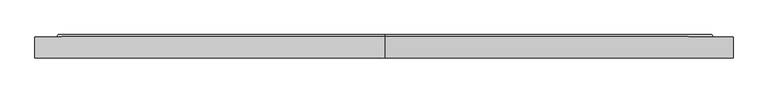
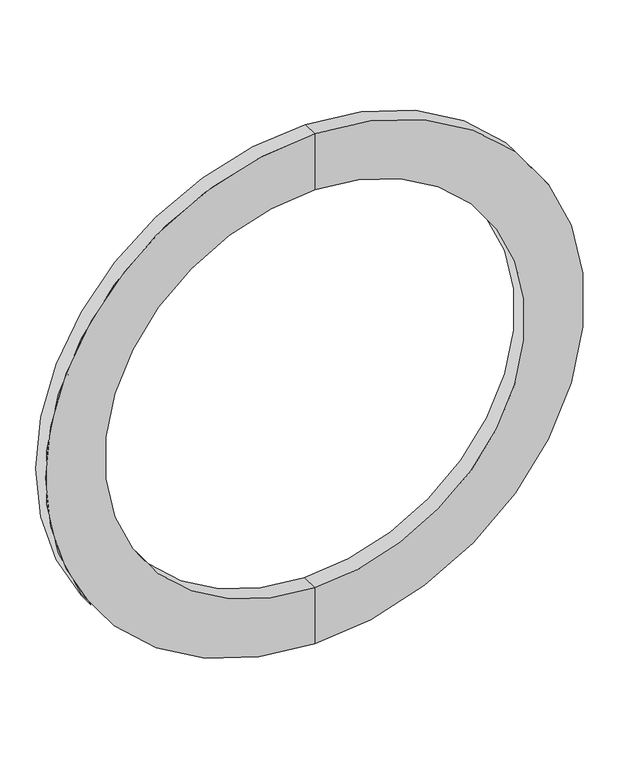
"""IFC4 building model written with IfcOpenShell, lengths in millimetres: pipe fitting geometry, Фланец : Фланец."""

import ifcopenshell
import ifcopenshell.guid

model = None  # the IFC model being written
_history = None  # IfcOwnerHistory: only IFC2X3 demands one
_inside = {}  # id of a spatial element -> (the spatial element, [elements in it])
_under = {}  # id of a project, library or spatial element -> (it, [spatial elements below it])
_declared = {}  # id of a project -> (the project, [libraries it declares])
_typed = {}  # id of a type object -> (the type object, [elements of that type])
_made_of = {}  # id of a material, layer set ... -> (it, [elements and type objects made of it])


def new_model(schema):
    """Start an empty IFC model of exactly this schema.

    Asked for "IFC4X3", IfcOpenShell would pick the latest addendum, in which some entities
    have other attributes; the version numbers below select the first issue.
    IFC2X3 requires an IfcOwnerHistory on every rooted entity: one is made here for all.
    """
    global model, _history
    if schema == "IFC4X3":
        model = ifcopenshell.file(schema_version=(4, 3, 0, 0))
    else:
        model = ifcopenshell.file(schema=schema)
    _inside.clear()
    _under.clear()
    _declared.clear()
    _typed.clear()
    _made_of.clear()
    _history = None
    if model.schema == "IFC2X3":
        org = make("IfcOrganization", Name="unknown")
        user = make(
            "IfcPersonAndOrganization",
            ThePerson=make("IfcPerson", FamilyName="unknown"),
            TheOrganization=org,
        )
        app = make(
            "IfcApplication",
            ApplicationDeveloper=org,
            Version="unknown",
            ApplicationFullName="unknown",
            ApplicationIdentifier="unknown",
        )
        _history = make(
            "IfcOwnerHistory",
            OwningUser=user,
            OwningApplication=app,
            ChangeAction="ADDED",
            CreationDate=0,
        )
    return model


def make(cls, **values):
    """One entity of the class cls with the attributes given. An attribute that is None is left unset."""
    return model.create_entity(
        cls, **{name: value for name, value in values.items() if value is not None}
    )


def rooted(cls, **values):
    """An entity with a GlobalId (a new one), such as an element, a storey or a relation."""
    return make(cls, GlobalId=ifcopenshell.guid.new(), OwnerHistory=_history, **values)


def si_unit(unit_type, name, prefix=None):
    """IfcSIUnit, for example si_unit("LENGTHUNIT", "METRE", prefix="MILLI")."""
    return make("IfcSIUnit", UnitType=unit_type, Prefix=prefix, Name=name)


def assignment(units):
    """IfcUnitAssignment: the units of a project."""
    return None if units is None else make("IfcUnitAssignment", Units=units)


def point(xyz):
    """IfcCartesianPoint."""
    return None if xyz is None else make("IfcCartesianPoint", Coordinates=xyz)


def direction(xyz):
    """IfcDirection."""
    return None if xyz is None else make("IfcDirection", DirectionRatios=xyz)


def frame(location, z_axis=None, x_axis=None):
    """IfcAxis2Placement3D, a coordinate frame: its origin and axes. An axis left out is left unset."""
    return make(
        "IfcAxis2Placement3D",
        Location=point(location),
        Axis=direction(z_axis),
        RefDirection=direction(x_axis),
    )


def origin():
    """The frame at (0, 0, 0) with its axes left unset."""
    return frame((0.0, 0.0, 0.0))


def place(relative_to, where):
    """IfcLocalPlacement: puts the frame where relative to a parent placement (None: the world)."""
    return make(
        "IfcLocalPlacement", PlacementRelTo=relative_to, RelativePlacement=where
    )


def context(
    kind, dimensions, precision=None, world=None, true_north=None, identifier=None
):
    """IfcGeometricRepresentationContext, for example the 3D "Model" context."""
    return make(
        "IfcGeometricRepresentationContext",
        ContextIdentifier=identifier,
        ContextType=kind,
        CoordinateSpaceDimension=dimensions,
        Precision=precision,
        WorldCoordinateSystem=world,
        TrueNorth=true_north,
    )


def project(units=None, contexts=None):
    """IfcProject with its units and contexts."""
    return rooted(
        "IfcProject",
        Name="project",
        RepresentationContexts=contexts,
        UnitsInContext=assignment(units),
    )


def spatial(cls, under=None, at=None, **own):
    """A site, building, storey or space (cls), placed at a placement, below another one or the project."""
    s = rooted(cls, ObjectPlacement=at, **own)
    if under is not None:
        _under.setdefault(under.id(), (under, []))[1].append(s)
    return s


def polyline(points):
    """IfcPolyline through the points."""
    return make("IfcPolyline", Points=[point(p) for p in points])


def circle_curve(where, radius):
    """IfcCircle in the frame where."""
    return make("IfcCircle", Position=where, Radius=radius)


def shape(context_of_items, identifier, shape_type, items):
    """IfcShapeRepresentation: the items that make up one representation, for example the "Body"."""
    return make(
        "IfcShapeRepresentation",
        ContextOfItems=context_of_items,
        RepresentationIdentifier=identifier,
        RepresentationType=shape_type,
        Items=items,
    )


def source(mapping_origin, context_of_items, identifier, shape_type, items):
    """IfcRepresentationMap: a shape defined once, which mapped items show again and again."""
    return make(
        "IfcRepresentationMap",
        MappingOrigin=mapping_origin,
        MappedRepresentation=shape(context_of_items, identifier, shape_type, items),
    )


def transform(
    local_origin,
    x_axis=None,
    y_axis=None,
    z_axis=None,
    scale=None,
    scale2=None,
    scale3=None,
    uniform=True,
):
    """IfcCartesianTransformationOperator3D, or its non-uniform kind. x_axis, y_axis, z_axis: its Axis1, 2, 3."""
    if uniform:
        return make(
            "IfcCartesianTransformationOperator3D",
            Axis1=direction(x_axis),
            Axis2=direction(y_axis),
            LocalOrigin=point(local_origin),
            Scale=scale,
            Axis3=direction(z_axis),
        )
    return make(
        "IfcCartesianTransformationOperator3DnonUniform",
        Axis1=direction(x_axis),
        Axis2=direction(y_axis),
        LocalOrigin=point(local_origin),
        Scale=scale,
        Axis3=direction(z_axis),
        Scale2=scale2,
        Scale3=scale3,
    )


def mapped(mapping_source, mapping_target):
    """IfcMappedItem: shows the shape of a source again, moved by a transform."""
    return make(
        "IfcMappedItem", MappingSource=mapping_source, MappingTarget=mapping_target
    )


def made_of(thing, what):
    """Note that an element or type object is made of a material, layer set ...; save() writes the relation."""
    if what is not None:
        _made_of.setdefault(what.id(), (what, []))[1].append(thing)
    return thing


def element(
    cls,
    number,
    at=None,
    inside=None,
    cuts=None,
    type_object=None,
    material=None,
    context=None,
    identifier="Body",
    shape_type=None,
    held_by="IfcProductDefinitionShape",
    body=None,
    shapes=None,
    **own,
):
    """One element of the class cls, such as IfcWall. Its Tag is "e" and its number.

    at: its placement. inside: the storey or other place that contains it. cuts: it is an
    opening in that element (IfcRelVoidsElement). A single representation is given by context,
    identifier, shape_type and body (its items); several are given by shapes. held_by: the class
    of the entity that holds the representations. save() writes the other relations.
    """
    e = rooted(cls, Tag="e%d" % number, ObjectPlacement=at, **own)
    if body is not None:
        shapes = [shape(context, identifier, shape_type, body)]
    if shapes is not None:
        e.Representation = make(held_by, Representations=shapes)
    if inside is not None:
        _inside.setdefault(inside.id(), (inside, []))[1].append(e)
    if cuts is not None:
        rooted(
            "IfcRelVoidsElement", RelatingBuildingElement=cuts, RelatedOpeningElement=e
        )
    if type_object is not None:
        _typed.setdefault(type_object.id(), (type_object, []))[1].append(e)
    return made_of(e, material)


def aggregate(whole, parts):
    """IfcRelAggregates: a whole, such as a stair, and the parts it consists of."""
    return rooted("IfcRelAggregates", RelatingObject=whole, RelatedObjects=parts)


def save(model, path):
    """Write the relations noted so far, then the file.

    IfcRelAggregates (storeys below a building ...), IfcRelContainedInSpatialStructure (elements
    in a storey), IfcRelDefinesByType, IfcRelAssociatesMaterial and IfcRelDeclares: one each for
    every whole, place, type object, material and project.
    """
    for whole, parts in _under.values():
        aggregate(whole, parts)
    for where, things in _inside.values():
        rooted(
            "IfcRelContainedInSpatialStructure",
            RelatedElements=things,
            RelatingStructure=where,
        )
    for kind, things in _typed.values():
        rooted("IfcRelDefinesByType", RelatedObjects=things, RelatingType=kind)
    for what, things in _made_of.values():
        rooted("IfcRelAssociatesMaterial", RelatedObjects=things, RelatingMaterial=what)
    for by, libraries in _declared.values():
        rooted("IfcRelDeclares", RelatingContext=by, RelatedDefinitions=libraries)
    model.write(path)


def plane_surface(at):
    """IfcPlane: the flat surface through the origin of the frame at, square to its z axis."""
    return make("IfcPlane", Position=at)


def cylinder_surface(at, radius):
    """IfcCylindricalSurface: all points at the distance radius from the z axis of the frame at."""
    return make("IfcCylindricalSurface", Position=at, Radius=radius)


def revolved_surface(curve, axis_point, axis_direction):
    """IfcSurfaceOfRevolution: the curve turned about the line through axis_point along axis_direction."""
    return make(
        "IfcSurfaceOfRevolution",
        SweptCurve=make("IfcArbitraryOpenProfileDef", ProfileType="CURVE", Curve=curve),
        AxisPosition=make("IfcAxis1Placement", Location=point(axis_point), Axis=direction(axis_direction)),
    )


def advanced_brep(points, edges, surfaces, faces):
    """IfcAdvancedBrep: a solid bounded by faces that lie on surfaces and meet in shared edges.

    An edge is (start, end): straight between two places in points (the first is 0);
    or (start, end, curve); or (start, end, curve, False) where it runs against its curve.
    A face is (place in surfaces, loops), or (place, loops, False) where it looks against
    its surface's normal. A loop lists edges by number (the first is 1), with a minus sign
    where the edge is run from its end to its start. The first loop is the outer one.
    """
    corners = [point(p) for p in points]
    vertices = [make("IfcVertexPoint", VertexGeometry=c) for c in corners]
    made = []
    for start, end, *more in edges:
        made.append(
            make(
                "IfcEdgeCurve",
                EdgeStart=vertices[start],
                EdgeEnd=vertices[end],
                EdgeGeometry=more[0] if more else make("IfcPolyline", Points=[corners[start], corners[end]]),
                SameSense=more[1] if len(more) > 1 else True,
            )
        )
    hull = []
    for where, loops, *sense in faces:
        bounds = []
        for j, loop in enumerate(loops):
            ring = [make("IfcOrientedEdge", EdgeElement=made[abs(k) - 1], Orientation=k > 0) for k in loop]
            bounds.append(
                make(
                    "IfcFaceOuterBound" if j == 0 else "IfcFaceBound",
                    Bound=make("IfcEdgeLoop", EdgeList=ring),
                    Orientation=True,
                )
            )
        hull.append(make("IfcAdvancedFace", Bounds=bounds, FaceSurface=surfaces[where], SameSense=sense[0] if sense else True))
    return make("IfcAdvancedBrep", Outer=make("IfcClosedShell", CfsFaces=hull))


def pipe_fitting_5b0ad892(model_context):
    return source(origin(), model_context, "Body", "AdvancedBrep", [
        advanced_brep(
        [(0.0, 0.0, -512.5), (0.0, 0.0, 512.5), (0.0, 30.9, 512.5), (0.0, 30.9, -512.5), (0.0, 0.0, -400.0), (0.0, 0.0, 400.0), (0.0, 33.9, -400.0), (0.0, 33.9, 400.0), (0.0, 33.9, -481.0), (0.0, 33.9, 481.0), (0.0, 30.9, -483.5), (0.0, 30.9, 483.5)],
        [
            (0, 1, circle_curve(frame((0.0, 0.0, 0.0), z_axis=(0.0, 1.0, 0.0), x_axis=(0.0, 0.0, 1.0)), 512.5)),
            (1, 2),
            (2, 3, circle_curve(frame((0.0, 30.9, 0.0), z_axis=(0.0, -1.0, 0.0), x_axis=(0.0, 0.0, 1.0)), 512.5)),
            (3, 0),
            (1, 0, circle_curve(frame((0.0, 0.0, 0.0), z_axis=(0.0, 1.0, 0.0), x_axis=(0.0, 0.0, 1.0)), 512.5)),
            (3, 2, circle_curve(frame((0.0, 30.9, 0.0), z_axis=(0.0, -1.0, 0.0), x_axis=(0.0, 0.0, 1.0)), 512.5)),
            (4, 5, circle_curve(frame((0.0, 0.0, 0.0), z_axis=(0.0, 1.0, 0.0), x_axis=(0.0, 0.0, 1.0)), 400.0)),
            (5, 1),
            (0, 4),
            (5, 4, circle_curve(frame((0.0, 0.0, 0.0), z_axis=(0.0, 1.0, 0.0), x_axis=(0.0, 0.0, 1.0)), 400.0)),
            (6, 7, circle_curve(frame((0.0, 33.9, 0.0), z_axis=(0.0, 1.0, 0.0), x_axis=(0.0, 0.0, 1.0)), 400.0)),
            (7, 5),
            (4, 6),
            (7, 6, circle_curve(frame((0.0, 33.9, 0.0), z_axis=(0.0, 1.0, 0.0), x_axis=(0.0, 0.0, 1.0)), 400.0)),
            (8, 9, circle_curve(frame((0.0, 33.9, 0.0), z_axis=(0.0, 1.0, 0.0), x_axis=(0.0, 0.0, 1.0)), 481.0)),
            (9, 7),
            (6, 8),
            (9, 8, circle_curve(frame((0.0, 33.9, 0.0), z_axis=(0.0, 1.0, 0.0), x_axis=(0.0, 0.0, 1.0)), 481.0)),
            (10, 11, circle_curve(frame((0.0, 30.9, 0.0), z_axis=(0.0, 1.0, 0.0), x_axis=(0.0, 0.0, 1.0)), 483.5)),
            (11, 9),
            (8, 10),
            (11, 10, circle_curve(frame((0.0, 30.9, 0.0), z_axis=(0.0, 1.0, 0.0), x_axis=(0.0, 0.0, 1.0)), 483.5)),
            (2, 11),
            (10, 3),
        ],
        [
            cylinder_surface(frame((0.0, -60.0, 0.0), z_axis=(0.0, -1.0, 0.0), x_axis=(0.0, 0.0, 1.0)), 512.5),
            plane_surface(frame((0.0, 0.0, 0.0), z_axis=(0.0, -1.0, 0.0), x_axis=(0.0, 0.0, 1.0))),
            revolved_surface(polyline([(0.0, 0.0, 400.0), (0.0, 33.900000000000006, 400.0)]), (0.0, -60.0, 0.0), (0.0, -1.0, 0.0)),
            plane_surface(frame((0.0, 33.9, 0.0), z_axis=(0.0, 1.0, 0.0), x_axis=(0.0, 0.0, 1.0))),
            revolved_surface(polyline([(0.0, 33.9, 481.0), (0.0, 30.9, 483.5)]), (0.0, -60.0, 0.0), (0.0, -1.0, 0.0)),
            plane_surface(frame((0.0, 30.9, 0.0), z_axis=(0.0, 1.0, 0.0), x_axis=(0.0, 0.0, 1.0))),
        ],
        [
            (0, [[1, 2, 3, 4]]),
            (0, [[5, -4, 6, -2]]),
            (1, [[7, 8, -1, 9]]),
            (1, [[10, -9, -5, -8]]),
            (2, [[11, 12, -7, 13]]),
            (2, [[14, -13, -10, -12]]),
            (3, [[15, 16, -11, 17]]),
            (3, [[18, -17, -14, -16]]),
            (4, [[19, 20, -15, 21]]),
            (4, [[22, -21, -18, -20]]),
            (5, [[-3, 23, -19, 24]]),
            (5, [[-6, -24, -22, -23]]),
        ],
    ),
    ])


if __name__ == "__main__":
    model = new_model("IFC4")
    model_context = context("Model", 3, world=origin())
    ifc_project = project(units=[si_unit("LENGTHUNIT", "METRE", prefix="MILLI")], contexts=[model_context])
    site = spatial("IfcSite", under=ifc_project)
    building = spatial("IfcBuilding", under=site)
    placement = place(None, origin())
    pipe_fitting_shape = pipe_fitting_5b0ad892(model_context)
    element("IfcPipeFitting", 1, ObjectType="Фланец : Фланец", at=placement, inside=building, context=model_context, shape_type="MappedRepresentation", body=[
        mapped(pipe_fitting_shape, transform((0.0, 0.0, 0.0), x_axis=(1.0, 0.0, 0.0), y_axis=(0.0, 1.0, 0.0), z_axis=(0.0, 0.0, 1.0))),
    ])
    save(model, "model.ifc")
